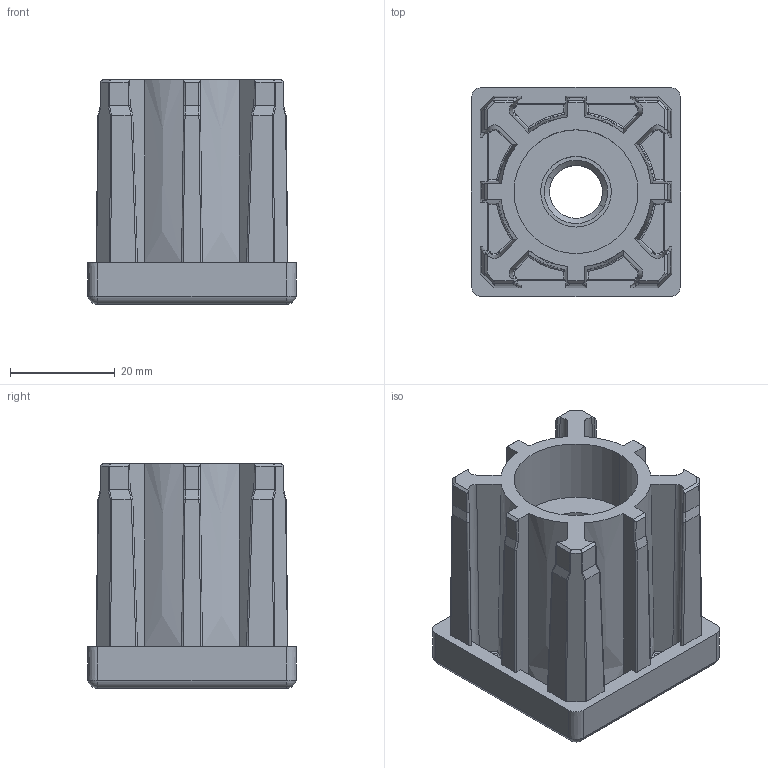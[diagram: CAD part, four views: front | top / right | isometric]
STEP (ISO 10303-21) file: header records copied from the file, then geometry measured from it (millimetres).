
FILE_DESCRIPTION(('CATIA V5 STEP Exchange'),'2;1');
FILE_NAME('C:\Users\dentellad\Desktop\P41636_01.stp','2017-03-09T07:58:12+00:00',('none'),('none'),'Version 5-6 Release 2012','CATIA V5 STEP AP203','none');
FILE_SCHEMA(('CONFIG_CONTROL_DESIGN'));
Length unit declared in the file: millimetre
Products named in the file (1): P41636_01
Assembly tree (2 placements, depth 2):
  P41636_01
    #58
    #23150
Bounding box: 40 x 40 x 43 mm (x, y, z)
Volume: 34955.8 mm3; surface area: 16905.9 mm2
Topology: 2 solids, 2 shells, 732 faces, 2066 edges, 1346 vertices
Faces by surface type: plane 550, cylinder 140, cone 22, bspline 8, torus 8, sphere 4
Entity records: 23600 total; most frequent: CARTESIAN_POINT 5615, ORIENTED_EDGE 4124, DIRECTION 3039, EDGE_CURVE 2062, VECTOR 1633, LINE 1633, VERTEX_POINT 1346, EDGE_LOOP 748
